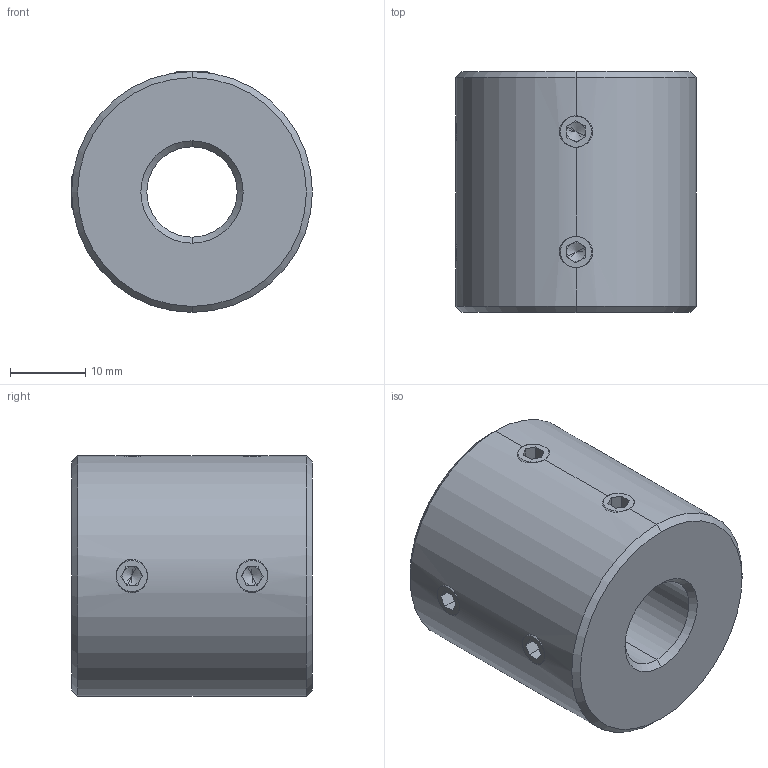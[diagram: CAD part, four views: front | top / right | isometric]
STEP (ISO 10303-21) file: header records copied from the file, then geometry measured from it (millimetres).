
FILE_DESCRIPTION (( 'STEP AP214' ), '1' );
FILE_NAME ('LL-D-D32L32-12-12½¨Ä£.STEP', '2022-07-22T11:31:15', ( '' ), ( '' ), 'SwSTEP 2.0', 'SolidWorks 2022', '' );
FILE_SCHEMA (( 'AUTOMOTIVE_DESIGN' ));
Length unit declared in the file: millimetre
Products named in the file (1): LL-D-D32L32-12-12膘耀
Bounding box: 32 x 32 x 32 mm (x, y, z)
Volume: 21863.2 mm3; surface area: 5890.5 mm2
Topology: 1 solids, 1 shells, 110 faces, 280 edges, 172 vertices
Faces by surface type: plane 58, cone 32, cylinder 20
Entity records: 3682 total; most frequent: CARTESIAN_POINT 1039, ORIENTED_EDGE 544, DIRECTION 542, EDGE_CURVE 272, AXIS2_PLACEMENT_3D 199, VERTEX_POINT 172, LINE 144, VECTOR 144
